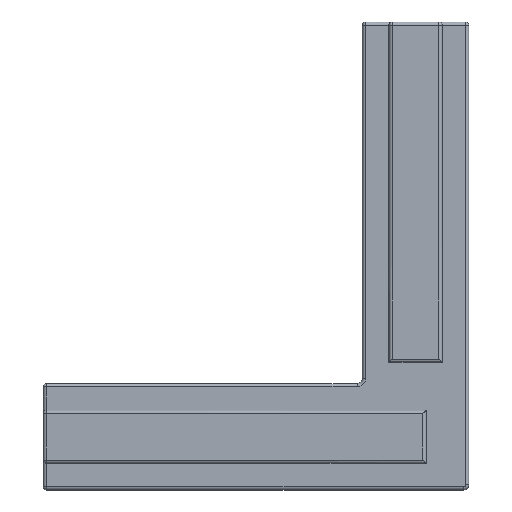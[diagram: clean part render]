
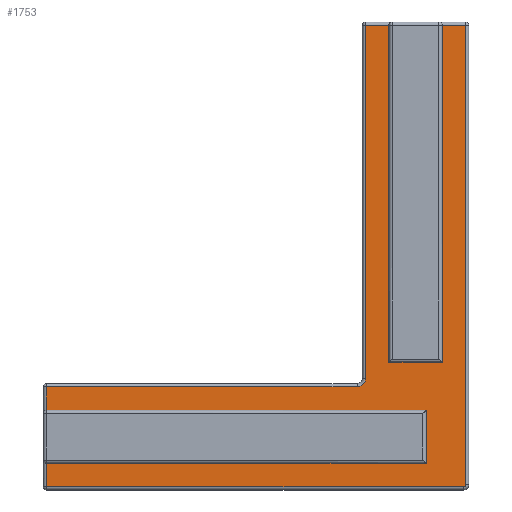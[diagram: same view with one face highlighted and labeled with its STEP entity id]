
A CAD part, left-side view. The second image highlights one B-rep face of the part: STEP entity #1753.
In plain terms, the highlighted planar face has unit normal (-1, 0, 0).
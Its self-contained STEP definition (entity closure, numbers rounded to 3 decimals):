
#13 = EDGE_CURVE ( 'NONE', #812, #1105, #141, .T. ) ;
#22 = CARTESIAN_POINT ( 'NONE',  ( -4., -4.7, -43.5 ) ) ;
#26 = ORIENTED_EDGE ( 'NONE', *, *, #1154, .T. ) ;
#30 = CARTESIAN_POINT ( 'NONE',  ( -4., 34.7, -41.5 ) ) ;
#74 = ORIENTED_EDGE ( 'NONE', *, *, #2780, .T. ) ;
#88 = VERTEX_POINT ( 'NONE', #2291 ) ;
#141 = LINE ( 'NONE', #2433, #1809 ) ;
#144 = ORIENTED_EDGE ( 'NONE', *, *, #2481, .F. ) ;
#156 = CARTESIAN_POINT ( 'NONE',  ( -4., 34.7, -43.7 ) ) ;
#157 = DIRECTION ( 'NONE',  ( 0., 1., 0. ) ) ;
#221 = CARTESIAN_POINT ( 'NONE',  ( -4., 5.5, -34.3 ) ) ;
#281 = VECTOR ( 'NONE', #157, 1000. ) ;
#287 = DIRECTION ( 'NONE',  ( 0., 0., 1. ) ) ;
#289 = EDGE_CURVE ( 'NONE', #2576, #2282, #2798, .T. ) ;
#328 = ORIENTED_EDGE ( 'NONE', *, *, #332, .T. ) ;
#332 = EDGE_CURVE ( 'NONE', #1034, #1189, #2143, .T. ) ;
#359 = LINE ( 'NONE', #2030, #2691 ) ;
#370 = LINE ( 'NONE', #1746, #2630 ) ;
#374 = CARTESIAN_POINT ( 'NONE',  ( -4., -5., -36.5 ) ) ;
#409 = CARTESIAN_POINT ( 'NONE',  ( -4., -2.5, -0.3 ) ) ;
#422 = DIRECTION ( 'NONE',  ( 0., 0., -1. ) ) ;
#423 = DIRECTION ( 'NONE',  ( -1., 0., 0. ) ) ;
#430 = CARTESIAN_POINT ( 'NONE',  ( -4., -5., -34.3 ) ) ;
#469 = DIRECTION ( 'NONE',  ( 0., 0., -1. ) ) ;
#479 = DIRECTION ( 'NONE',  ( 0., 0., 1. ) ) ;
#487 = LINE ( 'NONE', #1670, #281 ) ;
#491 = ORIENTED_EDGE ( 'NONE', *, *, #1223, .T. ) ;
#492 = CARTESIAN_POINT ( 'NONE',  ( -4., 5.5, -33.5 ) ) ;
#516 = LINE ( 'NONE', #2820, #1672 ) ;
#534 = AXIS2_PLACEMENT_3D ( 'NONE', #1720, #423, #1941 ) ;
#535 = VERTEX_POINT ( 'NONE', #800 ) ;
#679 = CARTESIAN_POINT ( 'NONE',  ( -4., -1., -41.5 ) ) ;
#689 = EDGE_CURVE ( 'NONE', #88, #880, #842, .T. ) ;
#700 = DIRECTION ( 'NONE',  ( 0., 0., 1. ) ) ;
#708 = ORIENTED_EDGE ( 'NONE', *, *, #2601, .T. ) ;
#718 = AXIS2_PLACEMENT_3D ( 'NONE', #2424, #1780, #479 ) ;
#775 = ORIENTED_EDGE ( 'NONE', *, *, #1625, .F. ) ;
#800 = CARTESIAN_POINT ( 'NONE',  ( -4., -4.7, -0.3 ) ) ;
#812 = VERTEX_POINT ( 'NONE', #2018 ) ;
#825 = ORIENTED_EDGE ( 'NONE', *, *, #13, .T. ) ;
#837 = EDGE_LOOP ( 'NONE', ( #328, #2344, #144, #825, #775, #2549, #1696, #2300, #2662, #708, #1298, #1041, #491, #2510, #26, #74 ) ) ;
#842 = LINE ( 'NONE', #1541, #1999 ) ;
#848 = CARTESIAN_POINT ( 'NONE',  ( -4., 34.7, -32. ) ) ;
#856 = LINE ( 'NONE', #374, #1361 ) ;
#880 = VERTEX_POINT ( 'NONE', #2489 ) ;
#885 = DIRECTION ( 'NONE',  ( 0., 0., 1. ) ) ;
#887 = DIRECTION ( 'NONE',  ( 0., 0., 1. ) ) ;
#978 = VERTEX_POINT ( 'NONE', #2177 ) ;
#1034 = VERTEX_POINT ( 'NONE', #221 ) ;
#1041 = ORIENTED_EDGE ( 'NONE', *, *, #1170, .T. ) ;
#1093 = CARTESIAN_POINT ( 'NONE',  ( -4., -5., -41.5 ) ) ;
#1105 = VERTEX_POINT ( 'NONE', #679 ) ;
#1133 = DIRECTION ( 'NONE',  ( 0., 0., -1. ) ) ;
#1138 = CARTESIAN_POINT ( 'NONE',  ( -4., 4.7, -32. ) ) ;
#1154 = EDGE_CURVE ( 'NONE', #2340, #978, #2235, .T. ) ;
#1170 = EDGE_CURVE ( 'NONE', #88, #1683, #2168, .T. ) ;
#1189 = VERTEX_POINT ( 'NONE', #2461 ) ;
#1204 = VECTOR ( 'NONE', #469, 1000. ) ;
#1223 = EDGE_CURVE ( 'NONE', #1683, #2703, #359, .T. ) ;
#1254 = EDGE_CURVE ( 'NONE', #2719, #2476, #1446, .T. ) ;
#1274 = DIRECTION ( 'NONE',  ( 0., 1., 0. ) ) ;
#1298 = ORIENTED_EDGE ( 'NONE', *, *, #689, .F. ) ;
#1315 = FACE_OUTER_BOUND ( 'NONE', #837, .T. ) ;
#1318 = CARTESIAN_POINT ( 'NONE',  ( -4., 2.5, -0.3 ) ) ;
#1361 = VECTOR ( 'NONE', #2121, 1000. ) ;
#1378 = CARTESIAN_POINT ( 'NONE',  ( -4., 34.7, -32. ) ) ;
#1446 = LINE ( 'NONE', #1378, #2546 ) ;
#1510 = DIRECTION ( 'NONE',  ( 0., -1., 0. ) ) ;
#1537 = CARTESIAN_POINT ( 'NONE',  ( -4., 2.5, -32. ) ) ;
#1541 = CARTESIAN_POINT ( 'NONE',  ( -4., -2.5, -32. ) ) ;
#1548 = EDGE_CURVE ( 'NONE', #1189, #1958, #2508, .T. ) ;
#1559 = LINE ( 'NONE', #409, #2072 ) ;
#1560 = PLANE ( 'NONE',  #718 ) ;
#1599 = LINE ( 'NONE', #1093, #2704 ) ;
#1625 = EDGE_CURVE ( 'NONE', #2719, #1105, #1599, .T. ) ;
#1630 = VECTOR ( 'NONE', #2385, 1000. ) ;
#1657 = EDGE_CURVE ( 'NONE', #2282, #535, #370, .T. ) ;
#1670 = CARTESIAN_POINT ( 'NONE',  ( -4., 5., -0.3 ) ) ;
#1672 = VECTOR ( 'NONE', #1510, 1000. ) ;
#1683 = VERTEX_POINT ( 'NONE', #1537 ) ;
#1696 = ORIENTED_EDGE ( 'NONE', *, *, #2192, .T. ) ;
#1720 = CARTESIAN_POINT ( 'NONE',  ( -4., -4.5, -43.5 ) ) ;
#1746 = CARTESIAN_POINT ( 'NONE',  ( -4., -4.7, -32. ) ) ;
#1753 = ADVANCED_FACE ( 'NONE', ( #1315 ), #1560, .T. ) ;
#1780 = DIRECTION ( 'NONE',  ( -1., 0., 0. ) ) ;
#1809 = VECTOR ( 'NONE', #1133, 1000. ) ;
#1919 = VECTOR ( 'NONE', #422, 1000. ) ;
#1941 = DIRECTION ( 'NONE',  ( 0., 0., 1. ) ) ;
#1958 = VERTEX_POINT ( 'NONE', #2516 ) ;
#1992 = CARTESIAN_POINT ( 'NONE',  ( -4., 4.7, -0.3 ) ) ;
#1999 = VECTOR ( 'NONE', #887, 1000. ) ;
#2006 = CIRCLE ( 'NONE', #2457, 0.8 ) ;
#2011 = DIRECTION ( 'NONE',  ( 1., 0., 0. ) ) ;
#2013 = DIRECTION ( 'NONE',  ( 0., 1., 0. ) ) ;
#2018 = CARTESIAN_POINT ( 'NONE',  ( -4., -1., -36.5 ) ) ;
#2030 = CARTESIAN_POINT ( 'NONE',  ( -4., 2.5, -32. ) ) ;
#2035 = EDGE_CURVE ( 'NONE', #2703, #2340, #487, .T. ) ;
#2072 = VECTOR ( 'NONE', #1274, 1000. ) ;
#2121 = DIRECTION ( 'NONE',  ( 0., 1., 0. ) ) ;
#2143 = LINE ( 'NONE', #430, #1630 ) ;
#2168 = LINE ( 'NONE', #2450, #2436 ) ;
#2177 = CARTESIAN_POINT ( 'NONE',  ( -4., 4.7, -33.5 ) ) ;
#2192 = EDGE_CURVE ( 'NONE', #2476, #2576, #516, .T. ) ;
#2235 = LINE ( 'NONE', #1138, #1204 ) ;
#2282 = VERTEX_POINT ( 'NONE', #22 ) ;
#2291 = CARTESIAN_POINT ( 'NONE',  ( -4., -2.5, -32. ) ) ;
#2300 = ORIENTED_EDGE ( 'NONE', *, *, #289, .T. ) ;
#2340 = VERTEX_POINT ( 'NONE', #1992 ) ;
#2344 = ORIENTED_EDGE ( 'NONE', *, *, #1548, .T. ) ;
#2354 = CARTESIAN_POINT ( 'NONE',  ( -4., -4.5, -43.7 ) ) ;
#2385 = DIRECTION ( 'NONE',  ( 0., 1., 0. ) ) ;
#2424 = CARTESIAN_POINT ( 'NONE',  ( -4., -5., -32. ) ) ;
#2433 = CARTESIAN_POINT ( 'NONE',  ( -4., -1., -32. ) ) ;
#2436 = VECTOR ( 'NONE', #2013, 1000. ) ;
#2450 = CARTESIAN_POINT ( 'NONE',  ( -4., -5., -32. ) ) ;
#2457 = AXIS2_PLACEMENT_3D ( 'NONE', #492, #2011, #700 ) ;
#2461 = CARTESIAN_POINT ( 'NONE',  ( -4., 34.7, -34.3 ) ) ;
#2467 = DIRECTION ( 'NONE',  ( 0., 0., -1. ) ) ;
#2476 = VERTEX_POINT ( 'NONE', #156 ) ;
#2481 = EDGE_CURVE ( 'NONE', #812, #1958, #856, .T. ) ;
#2489 = CARTESIAN_POINT ( 'NONE',  ( -4., -2.5, -0.3 ) ) ;
#2508 = LINE ( 'NONE', #848, #1919 ) ;
#2510 = ORIENTED_EDGE ( 'NONE', *, *, #2035, .T. ) ;
#2516 = CARTESIAN_POINT ( 'NONE',  ( -4., 34.7, -36.5 ) ) ;
#2546 = VECTOR ( 'NONE', #2467, 1000. ) ;
#2549 = ORIENTED_EDGE ( 'NONE', *, *, #1254, .T. ) ;
#2576 = VERTEX_POINT ( 'NONE', #2354 ) ;
#2601 = EDGE_CURVE ( 'NONE', #535, #880, #1559, .T. ) ;
#2630 = VECTOR ( 'NONE', #885, 1000. ) ;
#2639 = DIRECTION ( 'NONE',  ( 0., -1., 0. ) ) ;
#2662 = ORIENTED_EDGE ( 'NONE', *, *, #1657, .T. ) ;
#2691 = VECTOR ( 'NONE', #287, 1000. ) ;
#2703 = VERTEX_POINT ( 'NONE', #1318 ) ;
#2704 = VECTOR ( 'NONE', #2639, 1000. ) ;
#2719 = VERTEX_POINT ( 'NONE', #30 ) ;
#2780 = EDGE_CURVE ( 'NONE', #978, #1034, #2006, .T. ) ;
#2798 = CIRCLE ( 'NONE', #534, 0.2 ) ;
#2820 = CARTESIAN_POINT ( 'NONE',  ( -4., -5., -43.7 ) ) ;
